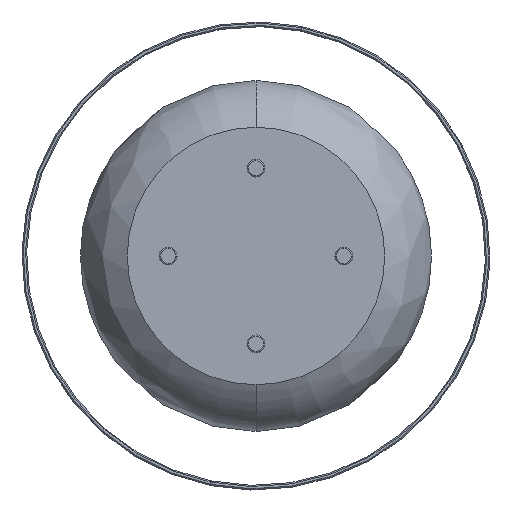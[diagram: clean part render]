
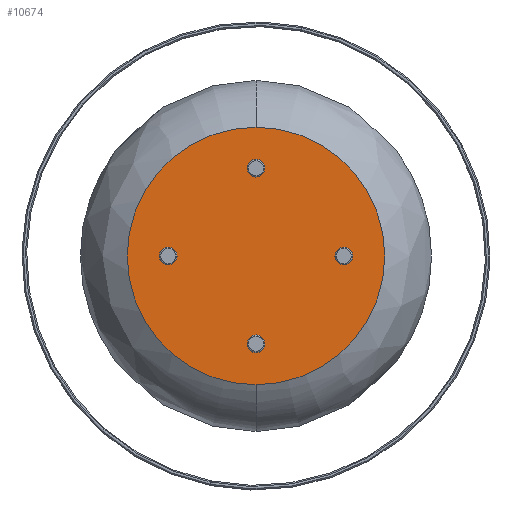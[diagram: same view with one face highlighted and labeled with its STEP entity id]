
A CAD part, front view. The second image highlights one B-rep face of the part: STEP entity #10674.
In plain terms, the highlighted planar face has unit normal (0, -1, 0).
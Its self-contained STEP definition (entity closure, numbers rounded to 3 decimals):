
#138 = PLANE ( 'NONE',  #7102 ) ;
#364 = CARTESIAN_POINT ( 'NONE',  ( 11.531, -19.399, 969.124 ) ) ;
#392 = AXIS2_PLACEMENT_3D ( 'NONE', #7955, #9551, #10639 ) ;
#958 = VERTEX_POINT ( 'NONE', #1254 ) ;
#1254 = CARTESIAN_POINT ( 'NONE',  ( -98.469, -19.399, 969.124 ) ) ;
#2145 = DIRECTION ( 'NONE',  ( 0., -1., 0. ) ) ;
#2442 = EDGE_CURVE ( 'NONE', #5438, #958, #5314, .T. ) ;
#2557 = CIRCLE ( 'NONE', #3434, 110. ) ;
#3393 = ORIENTED_EDGE ( 'NONE', *, *, #2442, .T. ) ;
#3434 = AXIS2_PLACEMENT_3D ( 'NONE', #364, #2145, #7349 ) ;
#3572 = DIRECTION ( 'NONE',  ( -1., 0., 0. ) ) ;
#5314 = CIRCLE ( 'NONE', #392, 110. ) ;
#5438 = VERTEX_POINT ( 'NONE', #8908 ) ;
#6171 = CARTESIAN_POINT ( 'NONE',  ( 11.531, -19.399, 969.124 ) ) ;
#7102 = AXIS2_PLACEMENT_3D ( 'NONE', #6171, #9587, #3572 ) ;
#7166 = EDGE_LOOP ( 'NONE', ( #3393, #8718 ) ) ;
#7349 = DIRECTION ( 'NONE',  ( -1., 0., 0. ) ) ;
#7955 = CARTESIAN_POINT ( 'NONE',  ( 11.531, -19.399, 969.124 ) ) ;
#8215 = FACE_OUTER_BOUND ( 'NONE', #7166, .T. ) ;
#8718 = ORIENTED_EDGE ( 'NONE', *, *, #10521, .T. ) ;
#8908 = CARTESIAN_POINT ( 'NONE',  ( 121.531, -19.399, 969.124 ) ) ;
#9551 = DIRECTION ( 'NONE',  ( 0., -1., 0. ) ) ;
#9587 = DIRECTION ( 'NONE',  ( 0., -1., 0. ) ) ;
#10521 = EDGE_CURVE ( 'NONE', #958, #5438, #2557, .T. ) ;
#10639 = DIRECTION ( 'NONE',  ( -1., 0., 0. ) ) ;
#10674 = ADVANCED_FACE ( 'NONE', ( #8215 ), #138, .T. ) ;
